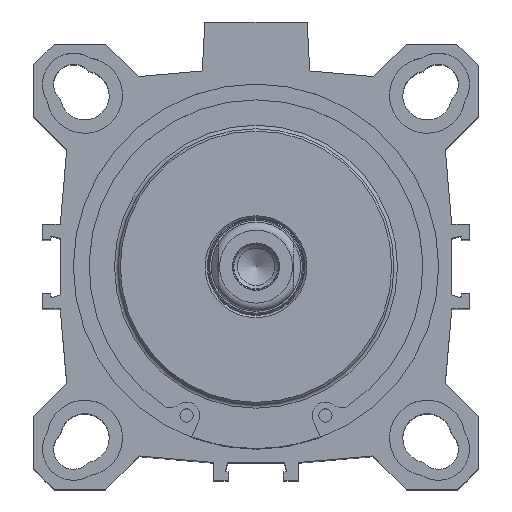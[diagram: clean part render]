
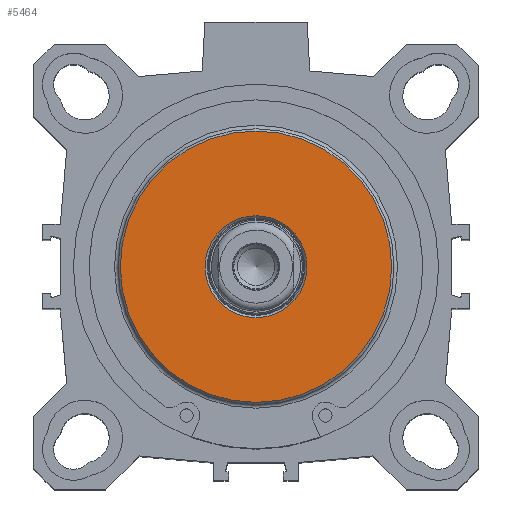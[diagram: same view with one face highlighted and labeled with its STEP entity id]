
A CAD part, top view. The second image highlights one B-rep face of the part: STEP entity #5464.
In plain terms, the highlighted planar face has unit normal (0, 0, 1).
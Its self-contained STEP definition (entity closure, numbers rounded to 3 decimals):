
#166=PLANE('',#5885);
#1562=ORIENTED_EDGE('',*,*,#2159,.F.);
#1563=ORIENTED_EDGE('',*,*,#2160,.T.);
#2159=EDGE_CURVE('',#2542,#2542,#2772,.T.);
#2160=EDGE_CURVE('',#2543,#2543,#2773,.T.);
#2542=VERTEX_POINT('',#8225);
#2543=VERTEX_POINT('',#8228);
#2772=CIRCLE('',#5884,11.45);
#2773=CIRCLE('',#5886,30.5);
#3081=EDGE_LOOP('',(#1562));
#3082=EDGE_LOOP('',(#1563));
#3424=FACE_BOUND('',#3081,.T.);
#3425=FACE_BOUND('',#3082,.T.);
#5464=ADVANCED_FACE('',(#3424,#3425),#166,.T.);
#5884=AXIS2_PLACEMENT_3D('',#8224,#6936,#6937);
#5885=AXIS2_PLACEMENT_3D('',#8226,#6938,#6939);
#5886=AXIS2_PLACEMENT_3D('',#8227,#6940,#6941);
#6936=DIRECTION('',(0.,0.,1.));
#6937=DIRECTION('',(0.,-1.,0.));
#6938=DIRECTION('',(0.,0.,1.));
#6939=DIRECTION('',(1.,0.,0.));
#6940=DIRECTION('',(0.,0.,1.));
#6941=DIRECTION('',(0.,-1.,0.));
#8224=CARTESIAN_POINT('',(0.,0.,95.05));
#8225=CARTESIAN_POINT('',(0.,-11.45,95.05));
#8226=CARTESIAN_POINT('',(0.,-20.975,95.05));
#8227=CARTESIAN_POINT('',(0.,0.,95.05));
#8228=CARTESIAN_POINT('',(0.,-30.5,95.05));
